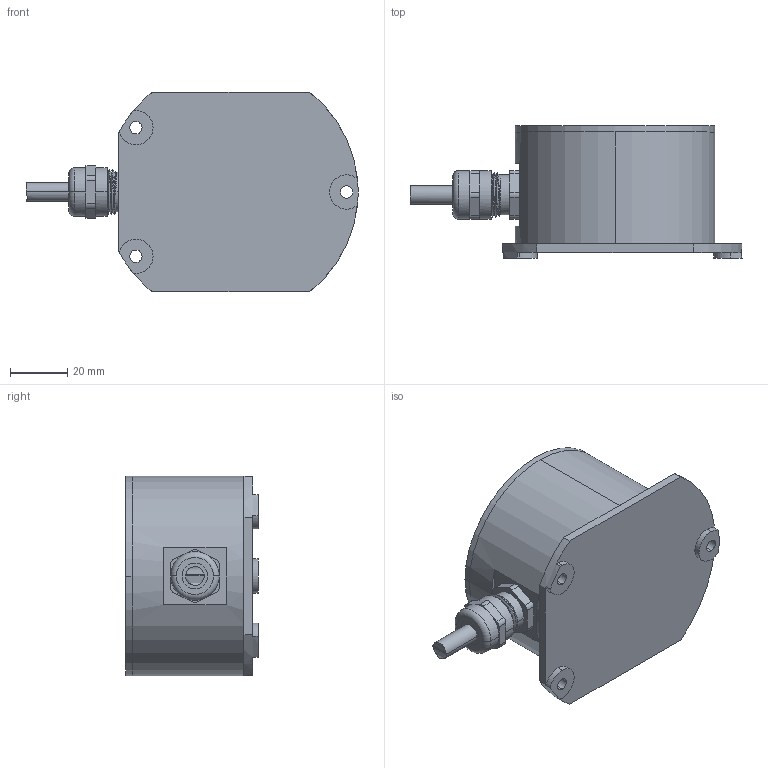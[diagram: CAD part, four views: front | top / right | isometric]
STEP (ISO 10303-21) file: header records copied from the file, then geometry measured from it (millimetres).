
FILE_DESCRIPTION (( 'STEP AP203' ), '1' );
FILE_NAME ('1a3-70x84-cw.step', '2013-04-12T11:26:55', ( '' ), ( '' ), 'SwSTEP 2.0', 'SolidWorks 2006104', '' );
FILE_SCHEMA (( 'CONFIG_CONTROL_DESIGN' ));
Length unit declared in the file: millimetre
Products named in the file (1): 1a3-70x84-cw
Bounding box: 116.27 x 46.4 x 70 mm (x, y, z)
Volume: 87524.5 mm3; surface area: 41999.7 mm2
Topology: 6 solids, 6 shells, 295 faces, 701 edges, 421 vertices
Faces by surface type: cylinder 104, plane 96, cone 56, torus 22, bspline 17
Entity records: 10545 total; most frequent: CARTESIAN_POINT 3645, DIRECTION 1481, ORIENTED_EDGE 1378, EDGE_CURVE 689, AXIS2_PLACEMENT_3D 563, VERTEX_POINT 421, VECTOR 355, LINE 355
